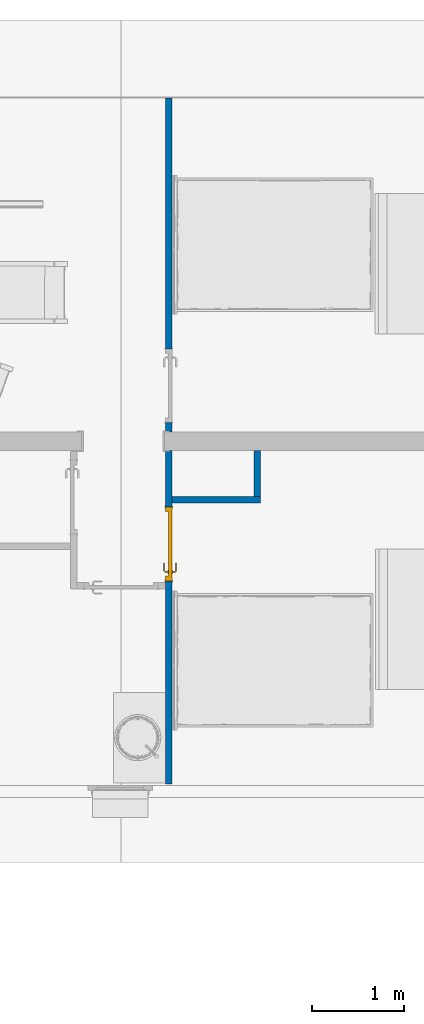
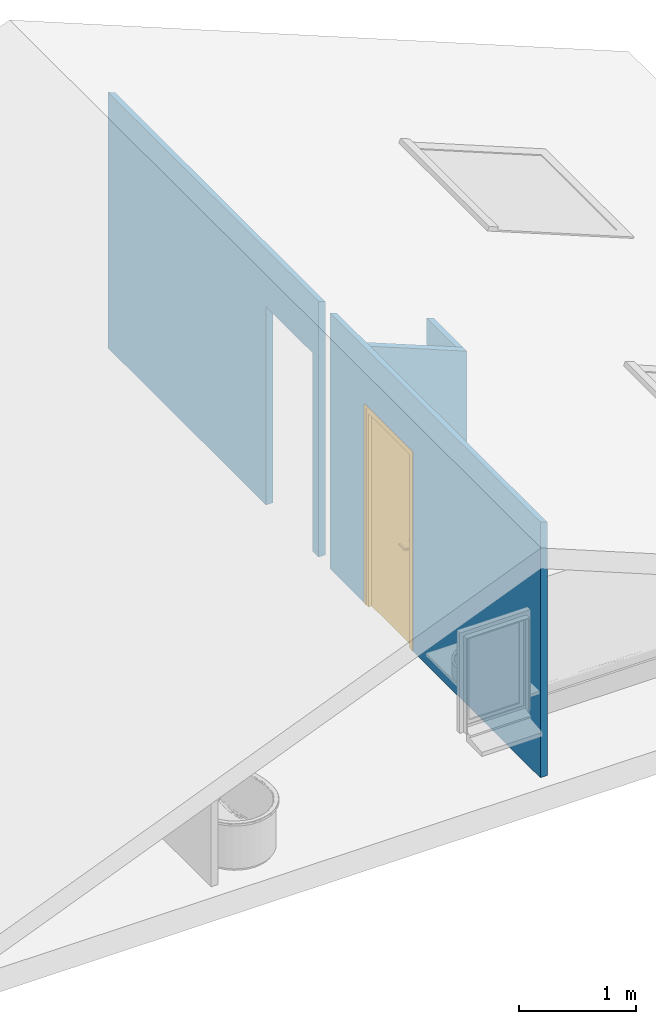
# One storey, part 2 of 6: 4 walls, 1 door, 2 openings.
"""IFC2X3 building model written with IfcOpenShell, lengths in metres."""

from ifc_helpers import new_model, entity, si_unit, converted_unit, derived_unit, direction, frame, frame_2d, origin, place, context, subcontext, project, spatial, polyline, rectangle, extrude, clip, bounded_halfspace, faceted_brep, source, transform, mapped, material, material_list, layer, layer_set, layer_usage, type_object, type_shapes, element, fill, save


model = new_model("IFC2X3")

# Units and contexts
model_context = context("Model", 3, precision=1e-05, world=origin(), true_north=direction((6.12303176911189e-17, 1.0)))
body_context = subcontext(model_context, "Body", "Model", "MODEL_VIEW")
ifc_project = project(units=[si_unit("LENGTHUNIT", "METRE"), si_unit("AREAUNIT", "SQUARE_METRE"), si_unit("VOLUMEUNIT", "CUBIC_METRE"), converted_unit("PLANEANGLEUNIT", "DEGREE", entity("IfcRatioMeasure", 0.0174532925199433), si_unit("PLANEANGLEUNIT", "RADIAN"), dimensions=[0, 0, 0, 0, 0, 0, 0]), si_unit("MASSUNIT", "GRAM", prefix="KILO"), derived_unit("MASSDENSITYUNIT", [(si_unit("MASSUNIT", "GRAM", prefix="KILO"), 1), (si_unit("LENGTHUNIT", "METRE"), -3)]), derived_unit("MOMENTOFINERTIAUNIT", [(si_unit("LENGTHUNIT", "METRE"), 4)]), si_unit("TIMEUNIT", "SECOND"), si_unit("FREQUENCYUNIT", "HERTZ"), si_unit("THERMODYNAMICTEMPERATUREUNIT", "DEGREE_CELSIUS"), derived_unit("THERMALTRANSMITTANCEUNIT", [(si_unit("MASSUNIT", "GRAM", prefix="KILO"), 1), (si_unit("THERMODYNAMICTEMPERATUREUNIT", "KELVIN"), -1), (si_unit("TIMEUNIT", "SECOND"), -3)]), derived_unit("VOLUMETRICFLOWRATEUNIT", [(si_unit("LENGTHUNIT", "METRE"), 3), (si_unit("TIMEUNIT", "SECOND"), -1)]), si_unit("ELECTRICCURRENTUNIT", "AMPERE"), si_unit("ELECTRICVOLTAGEUNIT", "VOLT"), si_unit("POWERUNIT", "WATT"), si_unit("FORCEUNIT", "NEWTON", prefix="KILO"), si_unit("ILLUMINANCEUNIT", "LUX"), si_unit("LUMINOUSFLUXUNIT", "LUMEN"), si_unit("LUMINOUSINTENSITYUNIT", "CANDELA"), derived_unit("USERDEFINED", [(si_unit("MASSUNIT", "GRAM", prefix="KILO"), -1), (si_unit("LENGTHUNIT", "METRE"), -2), (si_unit("TIMEUNIT", "SECOND"), 3), (si_unit("LUMINOUSFLUXUNIT", "LUMEN"), 1)]), derived_unit("LINEARVELOCITYUNIT", [(si_unit("LENGTHUNIT", "METRE"), 1), (si_unit("TIMEUNIT", "SECOND"), -1)]), si_unit("PRESSUREUNIT", "PASCAL"), derived_unit("USERDEFINED", [(si_unit("LENGTHUNIT", "METRE"), -2), (si_unit("MASSUNIT", "GRAM", prefix="KILO"), 1), (si_unit("TIMEUNIT", "SECOND"), -2)]), derived_unit("LINEARFORCEUNIT", [(si_unit("MASSUNIT", "GRAM", prefix="KILO"), 1), (si_unit("LENGTHUNIT", "METRE"), 1), (si_unit("TIMEUNIT", "SECOND"), -2), (si_unit("LENGTHUNIT", "METRE"), -1)]), derived_unit("PLANARFORCEUNIT", [(si_unit("MASSUNIT", "GRAM", prefix="KILO"), 1), (si_unit("LENGTHUNIT", "METRE"), 1), (si_unit("TIMEUNIT", "SECOND"), -2), (si_unit("LENGTHUNIT", "METRE"), -2)])], contexts=[model_context])

# Site, building, storey
site_placement = place(None, origin())
site = spatial("IfcSite", under=ifc_project, at=site_placement, Name="Surface", CompositionType="ELEMENT")
building_placement = place(site_placement, origin())
building = spatial("IfcBuilding", under=site, at=building_placement, CompositionType="ELEMENT")
storey_placement = place(building_placement, frame((0.0, 0.0, 5.6)))
storey = spatial("IfcBuildingStorey", under=building, at=storey_placement, Name="Niveau comble", CompositionType="ELEMENT", Elevation=5.6)

# Wall, opening
ifc_material_1 = material(Name="Mur par défaut")
ifc_layer = layer(ifc_material_1, 0.07)
ifc_layer_set = layer_set([ifc_layer], Name="Mur de base:Générique - Int. 70 mm")
ifc_layer_usage_1 = layer_usage(ifc_layer_set, "AXIS2", "NEGATIVE", 0.035)
wall_type = type_object("IfcWallType", Name="Mur de base:Générique - Int. 70 mm", PredefinedType="STANDARD", material=ifc_layer_set)
wall_1_placement = place(storey_placement, frame((7.6843960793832, 3.39925810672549, 0.0), z_axis=(0.0, 0.0, 1.0), x_axis=(0.0, 1.0, 0.0)))
wall_1 = element("IfcWallStandardCase", 1, at=wall_1_placement, inside=storey, type_object=wall_type, material=ifc_layer_usage_1, Name="Mur de base:Générique - Int. 70 mm", ObjectType="Mur de base:Générique - Int. 70 mm", context=body_context, shape_type="Clipping", body=[
    clip(extrude(rectangle(XDim=3.61, YDim=0.0699999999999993, at=frame_2d((1.805, -2.42861286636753e-17), x_axis=(-1.0, 0.0))), origin(), (0.0, 0.0, 1.0), 2.67776780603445), bounded_halfspace(frame((0.0, -0.0350000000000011, 2.64948597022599), z_axis=(0.0, -0.374606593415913, 0.927183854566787), x_axis=(1.0, 0.0, 0.0)), False, frame((0.0, -0.0350000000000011, 2.64948597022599)), polyline([(0.0, 0.0), (3.61, 0.0), (3.61, 0.0700000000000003), (0.0, 0.0700000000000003), (0.0, 0.0)]))),
])
opening_1_placement = place(wall_1_placement, frame((0.899999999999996, 0.0349999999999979, 0.0)))
element("IfcOpeningElement", 2, at=opening_1_placement, cuts=wall_1, Name="Int. Simple:PP (0.73m x 2.04m):1", ObjectType="Opening", context=body_context, shape_type="SweptSolid", body=[
    extrude(rectangle(XDim=2.075, YDim=0.799999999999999, at=frame_2d((1.0375, 0.4), x_axis=(1.0, 0.0))), frame((0.0, 0.0, 0.0), z_axis=(0.0, -1.0, 0.0), x_axis=(0.0, 0.0, 1.0)), (0.0, 0.0, 1.0), 0.07),
])

# Walls
ifc_layer_usage_2 = layer_usage(ifc_layer_set, "AXIS2", "NEGATIVE", 0.035)
wall_2_placement = place(storey_placement, frame((7.71810132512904, 2.66425810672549, 0.0)))
element("IfcWallStandardCase", 3, at=wall_2_placement, inside=storey, type_object=wall_type, material=ifc_layer_usage_2, Name="Mur de base:Générique - Int. 70 mm", ObjectType="Mur de base:Générique - Int. 70 mm", context=body_context, shape_type="Clipping", body=[
    clip(extrude(rectangle(XDim=0.956294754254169, YDim=0.0700000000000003, at=frame_2d((0.478147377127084, -2.39391839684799e-16), x_axis=(-1.0, 0.0))), origin(), (0.0, 0.0, 1.0), 2.65000908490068), bounded_halfspace(frame((0.0, -0.0349999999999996, 2.65000908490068), z_axis=(0.374606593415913, 0.0, 0.927183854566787), x_axis=(0.0, 1.0, 0.0)), False, frame((0.0, -0.0349999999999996, 2.65000908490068)), polyline([(0.0, 0.0), (0.956294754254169, 0.0), (0.956294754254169, 0.0699999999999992), (0.886294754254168, 0.0699999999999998), (0.0, 0.0699999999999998), (0.0, 0.0)]))),
])
ifc_layer_usage_3 = layer_usage(ifc_layer_set, "AXIS2", "NEGATIVE", 0.035)
wall_3_placement = place(storey_placement, frame((8.6393960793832, 2.69925810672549, 0.0), z_axis=(0.0, 0.0, 1.0), x_axis=(0.0, 1.0, 0.0)))
element("IfcWallStandardCase", 4, at=wall_3_placement, inside=storey, type_object=wall_type, material=ifc_layer_usage_3, Name="Mur de base:Générique - Int. 70 mm", ObjectType="Mur de base:Générique - Int. 70 mm", context=body_context, shape_type="Clipping", body=[
    clip(extrude(rectangle(XDim=0.5, YDim=0.0699999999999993, at=frame_2d((0.25, -1.52655665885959e-16), x_axis=(-1.0, 0.0))), origin(), (0.0, 0.0, 1.0), 2.29192276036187), bounded_halfspace(frame((0.0, -0.0350000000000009, 2.26364092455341), z_axis=(0.0, -0.374606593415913, 0.927183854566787), x_axis=(1.0, 0.0, 0.0)), False, frame((0.0, -0.0350000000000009, 2.26364092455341)), polyline([(0.0, 0.0), (0.499999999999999, 0.0), (0.499999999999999, 0.07), (0.0, 0.0700000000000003), (0.0, 0.0)]))),
])

# Wall, opening, door
ifc_layer_usage_4 = layer_usage(ifc_layer_set, "AXIS2", "NEGATIVE", 0.035)
wall_4_placement = place(storey_placement, frame((7.68310132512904, 3.19925810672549, 0.0), z_axis=(0.0, 0.0, 1.0), x_axis=(0.0, -1.0, 0.0)))
wall_4 = element("IfcWallStandardCase", 5, at=wall_4_placement, inside=storey, type_object=wall_type, material=ifc_layer_usage_4, Name="Mur de base:Générique - Int. 70 mm", ObjectType="Mur de base:Générique - Int. 70 mm", context=body_context, shape_type="Clipping", body=[
    clip(extrude(rectangle(XDim=3.60499999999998, YDim=0.0699999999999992, at=frame_2d((1.80249999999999, 1.90819582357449e-16), x_axis=(-1.0, 0.0))), origin(), (0.0, 0.0, 1.0), 2.67829092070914), bounded_halfspace(frame((0.0, -0.0350000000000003, 2.67829092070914), z_axis=(0.0, 0.374606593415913, 0.927183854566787), x_axis=(-1.0, 0.0, 0.0)), False, frame((0.0, -0.0350000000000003, 2.67829092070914)), polyline([(0.0, 0.0), (1.43, 0.0), (1.5, 0.0), (3.60499999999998, 0.0), (3.60499999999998, 0.0700000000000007), (0.569999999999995, 0.0700000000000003), (0.499999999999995, 0.0700000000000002), (0.0, 0.0700000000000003), (0.0, 0.0)]))),
])
opening_2_placement = place(wall_4_placement, frame((0.609999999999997, -0.0350000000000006, 0.0)))
opening_2 = element("IfcOpeningElement", 6, at=opening_2_placement, cuts=wall_4, Name="Int. Simple:PP (0.73m x 2.04m):1", ObjectType="Opening", context=body_context, shape_type="SweptSolid", body=[
    extrude(rectangle(XDim=2.075, YDim=0.799999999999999, at=frame_2d((1.0375, 0.4), x_axis=(1.0, 0.0))), frame((0.0, 0.0, 0.0), z_axis=(0.0, 1.0, 0.0), x_axis=(0.0, 0.0, 1.0)), (0.0, 0.0, 1.0), 0.07),
])
ifc_material_2 = material(Name="Finition Peinture - Blanc satiné")
ifc_material_3 = material(Name="Bois - Panneau de porte")
ifc_material_4 = material(Name="Bois - Cadre de porte")
ifc_material_list_1 = material_list([ifc_material_2, ifc_material_3, ifc_material_4])
ifc_material_list_2 = material_list([ifc_material_3, ifc_material_2, ifc_material_4])
door_style = type_object("IfcDoorStyle", Name="Int. Simple:PP (0.73m x 2.04m)", ConstructionType="NOTDEFINED", OperationType="NOTDEFINED", ParameterTakesPrecedence=False, Sizeable=False, material=ifc_material_list_2)
shared_shape = source(origin(), body_context, "Body", "Brep", [
    faceted_brep([(0.105352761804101, -0.00500000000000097, 0.866003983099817), (0.115, -0.00500000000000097, 0.870000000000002), (0.114999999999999, -0.00500000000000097, 1.08), (0.1053527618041, -0.00500000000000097, 1.08399601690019), (0.0949999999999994, -0.00500000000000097, 1.08535898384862), (0.0846472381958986, -0.00500000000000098, 1.08399601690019), (0.0749999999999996, -0.00500000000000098, 1.08), (0.0750000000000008, -0.00500000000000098, 0.870000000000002), (0.0846472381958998, -0.00500000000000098, 0.866003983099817), (0.0950000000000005, -0.00500000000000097, 0.86464101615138), (0.1053527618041, 0.0, 1.08399601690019), (0.114999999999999, 0.0, 1.08), (0.115, 0.0, 0.870000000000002), (0.105352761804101, 0.0, 0.866003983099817), (0.0950000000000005, 0.0, 0.86464101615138), (0.0846472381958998, 0.0, 0.866003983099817), (0.0749999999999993, 0.0, 0.870000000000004), (0.0749999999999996, 0.0, 1.08), (0.0846472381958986, 0.0, 1.08399601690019), (0.0949999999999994, 0.0, 1.08535898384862)], [[[0, 1, 2, 3, 4, 5, 6, 7, 8, 9]], [[10, 11, 12, 13, 14, 15, 16, 17, 18, 19]], [[16, 15, 8, 7]], [[8, 15, 14, 9]], [[14, 13, 0, 9]], [[13, 12, 1, 0]], [[2, 1, 12, 11]], [[11, 10, 3, 2]], [[3, 10, 19, 4]], [[19, 18, 5, 4]], [[18, 17, 6, 5]], [[7, 6, 17, 16]]]),
    faceted_brep([(0.105352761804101, 0.039999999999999, 0.866003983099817), (0.115, 0.039999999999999, 0.870000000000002), (0.114999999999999, 0.039999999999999, 1.08), (0.1053527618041, 0.039999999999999, 1.08399601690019), (0.094999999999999, 0.039999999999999, 1.08535898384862), (0.0846472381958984, 0.039999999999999, 1.08399601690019), (0.0749999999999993, 0.039999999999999, 1.08), (0.0750000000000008, 0.039999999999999, 0.870000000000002), (0.0846472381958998, 0.039999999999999, 0.866003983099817), (0.0950000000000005, 0.039999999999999, 0.86464101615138), (0.1053527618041, 0.044999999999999, 1.08399601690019), (0.114999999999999, 0.044999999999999, 1.08), (0.115, 0.044999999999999, 0.870000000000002), (0.105352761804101, 0.044999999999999, 0.866003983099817), (0.0950000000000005, 0.044999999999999, 0.86464101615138), (0.0846472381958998, 0.044999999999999, 0.866003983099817), (0.0749999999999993, 0.044999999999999, 0.870000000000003), (0.0749999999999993, 0.044999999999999, 1.08), (0.0846472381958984, 0.044999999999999, 1.08399601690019), (0.094999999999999, 0.044999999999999, 1.08535898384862)], [[[0, 1, 2, 3, 4, 5, 6, 7, 8, 9]], [[10, 11, 12, 13, 14, 15, 16, 17, 18, 19]], [[11, 10, 3, 2]], [[3, 10, 19, 4]], [[19, 18, 5, 4]], [[18, 17, 6, 5]], [[7, 6, 17, 16]], [[16, 15, 8, 7]], [[8, 15, 14, 9]], [[14, 13, 0, 9]], [[13, 12, 1, 0]], [[2, 1, 12, 11]]]),
    faceted_brep([(0.0929747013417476, -0.00500000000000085, 1.00778044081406), (0.0970252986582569, -0.00500000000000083, 1.00778044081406), (0.101000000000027, -0.00500000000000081, 1.00699999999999), (0.101000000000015, -0.00500000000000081, 0.993000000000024), (0.0970252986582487, -0.00500000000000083, 0.992219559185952), (0.0929747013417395, -0.00500000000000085, 0.99221955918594), (0.0889999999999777, -0.00500000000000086, 0.992999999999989), (0.0889999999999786, -0.00500000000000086, 1.007), (0.0889999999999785, -0.0326509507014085, 1.007), (0.0929747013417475, -0.0310045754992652, 1.00778044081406), (0.109023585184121, -0.047053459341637, 1.00778044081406), (0.110701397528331, -0.0430028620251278, 1.00778044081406), (0.0970252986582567, -0.0293267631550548, 1.00778044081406), (0.101000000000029, -0.0276803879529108, 1.007), (0.101000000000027, -0.0276803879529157, 0.993000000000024), (0.0970252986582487, -0.0293267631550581, 0.992219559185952), (0.110701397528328, -0.0430028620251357, 0.992219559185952), (0.109023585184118, -0.0470534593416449, 0.99221955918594), (0.0929747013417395, -0.0310045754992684, 0.99221955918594), (0.0889999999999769, -0.0326509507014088, 0.992999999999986), (0.107377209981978, -0.051028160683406, 1.007), (0.112347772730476, -0.039028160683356, 1.007), (0.112347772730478, -0.0390281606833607, 0.993000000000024), (0.107377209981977, -0.0510281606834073, 0.992999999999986), (0.195018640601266, -0.051028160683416, 0.992999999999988), (0.195018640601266, -0.0470534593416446, 0.99221955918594), (0.195018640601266, -0.0430028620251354, 0.992219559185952), (0.195018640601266, -0.0390281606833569, 0.993000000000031), (0.195018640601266, -0.0390281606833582, 1.007), (0.195018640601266, -0.0430028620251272, 1.00778044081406), (0.195018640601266, -0.0470534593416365, 1.00778044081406), (0.195018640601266, -0.0510281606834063, 1.00699999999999), (0.147307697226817, -0.0510281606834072, 1.007), (0.152860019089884, -0.0450281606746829, 1.0078786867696), (0.15368320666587, -0.0390281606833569, 1.007), (0.153683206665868, -0.0390281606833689, 0.993000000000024), (0.152860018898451, -0.0450281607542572, 0.992121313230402), (0.147307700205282, -0.0510281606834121, 0.992999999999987)], [[[0, 1, 2, 3, 4, 5, 6, 7]], [[8, 9, 0, 7]], [[9, 10, 11, 12, 1, 0]], [[12, 13, 2, 1]], [[3, 2, 13, 14]], [[14, 15, 4, 3]], [[15, 16, 17, 18, 5, 4]], [[18, 19, 6, 5]], [[7, 6, 19, 8]], [[20, 10, 9, 8]], [[11, 21, 13, 12]], [[14, 13, 21, 22]], [[22, 16, 15, 14]], [[17, 23, 19, 18]], [[8, 19, 23, 20]], [[24, 25, 26, 27, 28, 29, 30, 31]], [[32, 30, 33]], [[31, 30, 32]], [[10, 20, 32]], [[33, 34, 11]], [[21, 11, 34]], [[34, 29, 28]], [[30, 29, 33]], [[29, 34, 33]], [[10, 32, 33]], [[10, 33, 11]], [[22, 21, 34, 28, 27, 35]], [[35, 26, 36]], [[37, 36, 25]], [[22, 35, 16]], [[35, 27, 26]], [[24, 37, 25]], [[23, 17, 37]], [[37, 17, 36]], [[17, 16, 36]], [[16, 35, 36]], [[25, 36, 26]], [[20, 23, 37, 24, 31, 32]]]),
    faceted_brep([(0.0929747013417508, 0.0449999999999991, 1.00778044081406), (0.0889999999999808, 0.0449999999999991, 1.007), (0.0889999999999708, 0.0449999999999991, 0.992999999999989), (0.0929747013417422, 0.0449999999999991, 0.99221955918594), (0.0970252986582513, 0.0449999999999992, 0.992219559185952), (0.10100000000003, 0.0449999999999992, 0.993000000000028), (0.101000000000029, 0.0449999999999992, 1.007), (0.0970252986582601, 0.0449999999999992, 1.00778044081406), (0.10100000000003, 0.0674852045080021, 0.993000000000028), (0.10100000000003, 0.0674852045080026, 1.007), (0.0970252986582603, 0.0691315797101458, 1.00778044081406), (0.110838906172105, 0.0829451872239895, 1.00778044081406), (0.109161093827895, 0.0869957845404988, 1.00778044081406), (0.092974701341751, 0.070809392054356, 1.00778044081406), (0.0889999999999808, 0.0724557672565, 1.007), (0.0889999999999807, 0.0724557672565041, 0.992999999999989), (0.0929747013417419, 0.0708093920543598, 0.99221955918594), (0.109161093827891, 0.0869957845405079, 0.99221955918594), (0.110838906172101, 0.0829451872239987, 0.992219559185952), (0.0970252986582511, 0.0691315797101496, 0.992219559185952), (0.112485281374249, 0.0789704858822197, 0.993000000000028), (0.112485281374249, 0.07897048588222, 1.007), (0.107514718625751, 0.090970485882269, 1.007), (0.107514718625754, 0.0909704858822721, 0.992999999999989), (0.195045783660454, 0.0789704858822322, 0.993000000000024), (0.195045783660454, 0.0829451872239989, 0.992219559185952), (0.195045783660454, 0.0869957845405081, 0.99221955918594), (0.195045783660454, 0.0909704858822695, 0.992999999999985), (0.195045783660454, 0.0909704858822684, 1.007), (0.195045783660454, 0.0869957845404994, 1.00778044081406), (0.195045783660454, 0.0829451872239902, 1.00778044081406), (0.195045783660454, 0.07897048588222, 1.007), (0.153765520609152, 0.0789704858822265, 0.993000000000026), (0.153765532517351, 0.0789704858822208, 1.007), (0.152942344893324, 0.0849704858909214, 1.0078786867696), (0.147445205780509, 0.0909704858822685, 1.007), (0.147445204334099, 0.0909704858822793, 0.992999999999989), (0.152942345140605, 0.0849704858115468, 0.992121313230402)], [[[0, 1, 2, 3, 4, 5, 6, 7]], [[6, 5, 8, 9]], [[9, 10, 7, 6]], [[10, 11, 12, 13, 0, 7]], [[13, 14, 1, 0]], [[2, 1, 14, 15]], [[15, 16, 3, 2]], [[16, 17, 18, 19, 4, 3]], [[19, 8, 5, 4]], [[9, 8, 20, 21]], [[21, 11, 10, 9]], [[12, 22, 14, 13]], [[15, 14, 22, 23]], [[23, 17, 16, 15]], [[18, 20, 8, 19]], [[24, 25, 26, 27, 28, 29, 30, 31]], [[21, 20, 32, 24, 31, 33]], [[33, 30, 34]], [[35, 34, 29]], [[21, 33, 11]], [[33, 31, 30]], [[28, 35, 29]], [[22, 12, 35]], [[35, 12, 34]], [[12, 11, 34]], [[11, 33, 34]], [[29, 34, 30]], [[22, 35, 28, 27, 36, 23]], [[36, 26, 37]], [[27, 26, 36]], [[17, 23, 36]], [[37, 32, 18]], [[20, 18, 32]], [[32, 25, 24]], [[26, 25, 37]], [[25, 32, 37]], [[17, 36, 37]], [[17, 37, 18]]]),
    faceted_brep([(0.0349999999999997, 0.0400000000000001, 2.04), (0.765, 0.0400000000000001, 2.04), (0.765, 0.0400000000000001, 0.0), (0.0349999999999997, 0.0400000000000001, 0.0), (0.0349999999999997, 0.0, 2.04), (0.0349999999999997, 0.0, 0.0), (0.765, 0.0, 0.0), (0.765, 0.0, 2.04)], [[[0, 1, 2, 3]], [[4, 5, 6, 7]], [[1, 0, 4, 7]], [[2, 1, 7, 6]], [[3, 2, 6, 5]], [[0, 3, 5, 4]]]),
    faceted_brep([(0.0, 0.0, 0.0), (0.0, 0.0699999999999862, 0.0), (0.0500000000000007, 0.0699999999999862, 0.0), (0.0500000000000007, 0.04, 0.0), (0.0349999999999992, 0.04, 0.0), (0.0349999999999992, 0.0, 0.0), (0.0, 0.0, 2.07500000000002), (0.0, 0.0699999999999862, 2.07500000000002), (0.800000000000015, 0.0699999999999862, 2.07500000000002), (0.800000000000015, 0.0699999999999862, 0.0), (0.749999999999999, 0.0699999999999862, 0.0), (0.749999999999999, 0.0699999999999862, 2.025), (0.0500000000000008, 0.0699999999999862, 2.025), (0.0500000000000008, 0.04, 2.025), (0.749999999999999, 0.04, 2.025), (0.749999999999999, 0.04, 0.0), (0.765000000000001, 0.04, 0.0), (0.765000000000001, 0.04, 2.04), (0.0349999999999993, 0.04, 2.04), (0.0349999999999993, 0.0, 2.04), (0.765000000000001, 0.0, 2.04), (0.765000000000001, 0.0, 0.0), (0.800000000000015, 0.0, 0.0), (0.800000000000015, 0.0, 2.07500000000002)], [[[0, 1, 2, 3, 4, 5]], [[1, 0, 6, 7]], [[2, 1, 7, 8, 9, 10, 11, 12]], [[3, 2, 12, 13]], [[4, 3, 13, 14, 15, 16, 17, 18]], [[5, 4, 18, 19]], [[0, 5, 19, 20, 21, 22, 23, 6]], [[8, 23, 22, 9]], [[22, 21, 16, 15, 10, 9]], [[14, 11, 10, 15]], [[20, 17, 16, 21]], [[7, 6, 23, 8]], [[13, 12, 11, 14]], [[19, 18, 17, 20]]]),
    faceted_brep([(0.0149999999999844, 0.0699999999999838, 0.0), (-0.0150000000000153, 0.0699999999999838, 0.0), (-0.0150000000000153, 0.0749999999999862, 0.0), (0.0149999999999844, 0.0749999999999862, 0.0), (0.0149999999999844, 0.0699999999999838, 2.06000000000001), (0.784999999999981, 0.0699999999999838, 2.06000000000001), (0.784999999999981, 0.0699999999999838, 0.0), (0.81499999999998, 0.0699999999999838, 0.0), (0.81499999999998, 0.0699999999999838, 2.09000000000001), (-0.0150000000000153, 0.0699999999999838, 2.09000000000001), (-0.0150000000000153, 0.0749999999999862, 2.09000000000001), (0.81499999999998, 0.0749999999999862, 2.09000000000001), (0.81499999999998, 0.0749999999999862, 0.0), (0.784999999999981, 0.0749999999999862, 0.0), (0.784999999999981, 0.0749999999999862, 2.06000000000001), (0.0149999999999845, 0.0749999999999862, 2.06000000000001)], [[[0, 1, 2, 3]], [[1, 0, 4, 5, 6, 7, 8, 9]], [[2, 1, 9, 10]], [[3, 2, 10, 11, 12, 13, 14, 15]], [[0, 3, 15, 4]], [[6, 13, 12, 7]], [[5, 14, 13, 6]], [[11, 8, 7, 12]], [[10, 9, 8, 11]], [[4, 15, 14, 5]]]),
    faceted_brep([(-0.0150000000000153, -0.00499999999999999, 0.0), (0.0149999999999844, -0.00499999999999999, 0.0), (0.0149999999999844, -0.00499999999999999, 2.06000000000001), (0.784999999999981, -0.00499999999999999, 2.06000000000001), (0.784999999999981, -0.00499999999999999, 0.0), (0.81499999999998, -0.00499999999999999, 0.0), (0.81499999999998, -0.00499999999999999, 2.09000000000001), (-0.0150000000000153, -0.00499999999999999, 2.09000000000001), (-0.0150000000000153, 0.0, 0.0), (-0.0150000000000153, 0.0, 2.09000000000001), (0.0149999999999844, 0.0, 0.0), (0.81499999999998, 0.0, 2.09000000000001), (0.81499999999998, 0.0, 0.0), (0.784999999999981, 0.0, 0.0), (0.784999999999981, 0.0, 2.06000000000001), (0.0149999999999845, 0.0, 2.06000000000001)], [[[0, 1, 2, 3, 4, 5, 6, 7]], [[8, 0, 7, 9]], [[10, 8, 9, 11, 12, 13, 14, 15]], [[1, 10, 15, 2]], [[3, 14, 13, 4]], [[11, 6, 5, 12]], [[9, 7, 6, 11]], [[2, 15, 14, 3]], [[4, 13, 12, 5]], [[1, 0, 8, 10]]]),
])
type_shapes(door_style, [shared_shape])
door_placement = place(opening_2_placement, frame((0.8, 0.0699999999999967, 0.0), z_axis=(0.0, 0.0, 1.0), x_axis=(-1.0, 0.0, 0.0)))
door = element("IfcDoor", 7, at=door_placement, inside=storey, type_object=door_style, material=ifc_material_list_1, Name="Int. Simple:PP (0.73m x 2.04m)", ObjectType="Int. Simple:PP (0.73m x 2.04m)", OverallHeight=2.075, OverallWidth=0.799999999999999, context=body_context, shape_type="MappedRepresentation", body=[
    mapped(shared_shape, transform((0.0, 0.0, 0.0), scale=1.0)),
])
fill(opening_2, door)

save(model, "model.ifc")
